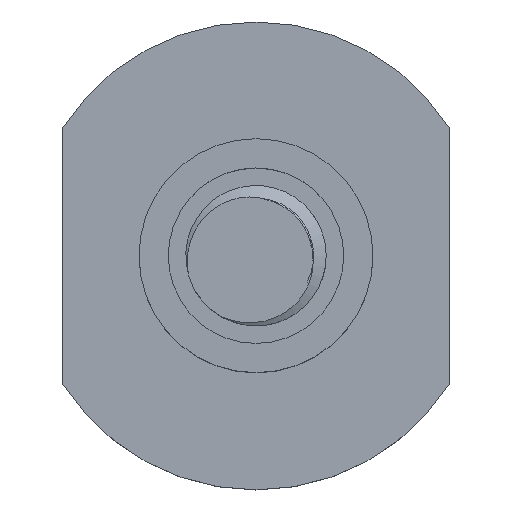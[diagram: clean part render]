
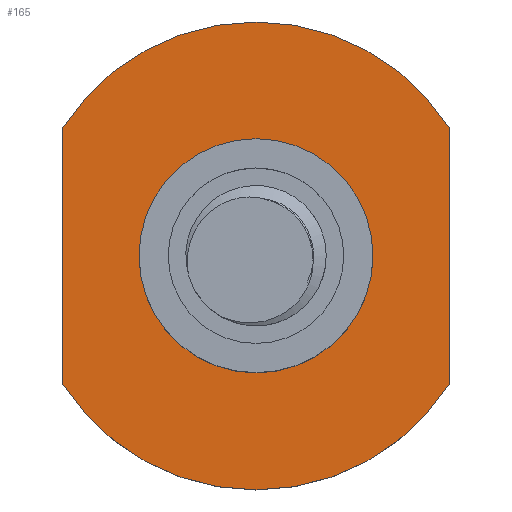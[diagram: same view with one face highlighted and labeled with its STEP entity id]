
A CAD part, top view. The second image highlights one B-rep face of the part: STEP entity #165.
In plain terms, the highlighted planar face has unit normal (0, 0, 1).
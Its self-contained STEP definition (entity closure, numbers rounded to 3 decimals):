
#39 = VERTEX_POINT('',#40);
#40 = CARTESIAN_POINT('',(8.25,5.5,2.8));
#46 = EDGE_CURVE('',#39,#47,#49,.T.);
#47 = VERTEX_POINT('',#48);
#48 = CARTESIAN_POINT('',(-8.25,5.5,2.8));
#49 = CIRCLE('',#50,9.814);
#50 = AXIS2_PLACEMENT_3D('',#51,#52,#53);
#51 = CARTESIAN_POINT('',(0.,0.184,2.8));
#52 = DIRECTION('',(0.,0.,1.));
#53 = DIRECTION('',(1.,0.,0.));
#79 = EDGE_CURVE('',#39,#80,#82,.T.);
#80 = VERTEX_POINT('',#81);
#81 = CARTESIAN_POINT('',(8.25,-5.5,2.8));
#82 = LINE('',#83,#84);
#83 = CARTESIAN_POINT('',(8.25,5.5,2.8));
#84 = VECTOR('',#85,1.);
#85 = DIRECTION('',(0.,-1.,0.));
#110 = EDGE_CURVE('',#47,#111,#113,.T.);
#111 = VERTEX_POINT('',#112);
#112 = CARTESIAN_POINT('',(-8.25,-5.5,2.8));
#113 = LINE('',#114,#115);
#114 = CARTESIAN_POINT('',(-8.25,5.5,2.8));
#115 = VECTOR('',#116,1.);
#116 = DIRECTION('',(0.,-1.,0.));
#165 = ADVANCED_FACE('',(#166,#178),#189,.T.);
#166 = FACE_BOUND('',#167,.T.);
#167 = EDGE_LOOP('',(#168,#169,#170,#177));
#168 = ORIENTED_EDGE('',*,*,#46,.T.);
#169 = ORIENTED_EDGE('',*,*,#110,.T.);
#170 = ORIENTED_EDGE('',*,*,#171,.T.);
#171 = EDGE_CURVE('',#111,#80,#172,.T.);
#172 = CIRCLE('',#173,9.814);
#173 = AXIS2_PLACEMENT_3D('',#174,#175,#176);
#174 = CARTESIAN_POINT('',(0.,-0.184,2.8));
#175 = DIRECTION('',(0.,0.,1.));
#176 = DIRECTION('',(1.,0.,0.));
#177 = ORIENTED_EDGE('',*,*,#79,.F.);
#178 = FACE_BOUND('',#179,.T.);
#179 = EDGE_LOOP('',(#180));
#180 = ORIENTED_EDGE('',*,*,#181,.F.);
#181 = EDGE_CURVE('',#182,#182,#184,.T.);
#182 = VERTEX_POINT('',#183);
#183 = CARTESIAN_POINT('',(5.,0.,2.8));
#184 = CIRCLE('',#185,5.);
#185 = AXIS2_PLACEMENT_3D('',#186,#187,#188);
#186 = CARTESIAN_POINT('',(0.,0.,2.8));
#187 = DIRECTION('',(0.,0.,1.));
#188 = DIRECTION('',(1.,0.,0.));
#189 = PLANE('',#190);
#190 = AXIS2_PLACEMENT_3D('',#191,#192,#193);
#191 = CARTESIAN_POINT('',(0.,0.,2.8));
#192 = DIRECTION('',(0.,0.,1.));
#193 = DIRECTION('',(1.,0.,0.));
